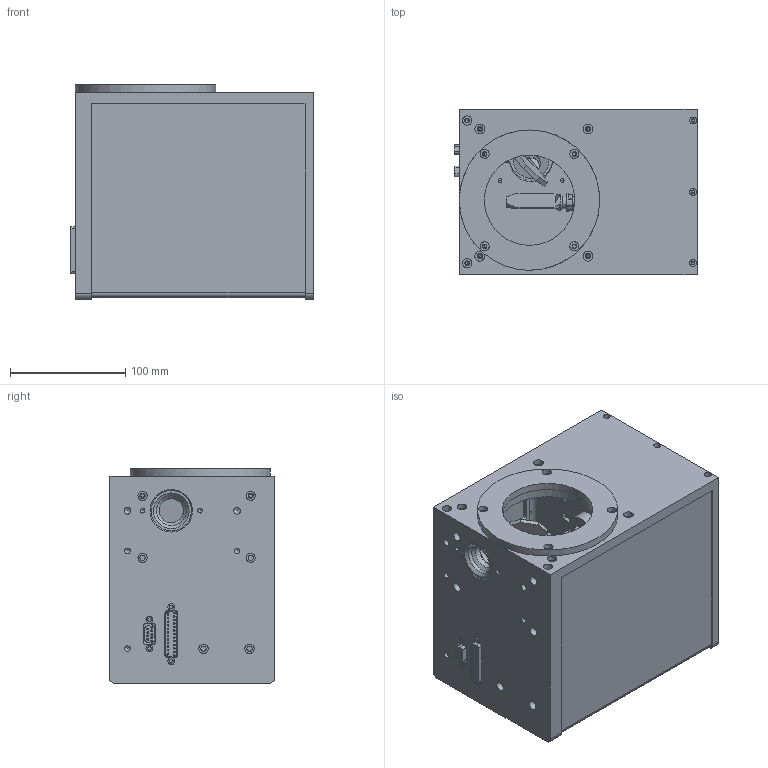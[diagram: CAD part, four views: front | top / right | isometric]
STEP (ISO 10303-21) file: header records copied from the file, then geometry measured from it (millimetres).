
FILE_DESCRIPTION( ( 'Unknown' ), '1' );
FILE_NAME( 'C:/Users/guow115776/Desktop/20mm源芛3D耀倰.stp', 'Unknown', ( 'Unknown' ), ( 'Unknown' ), 'XStep 1.0', 'Unknown', ' ' );
FILE_SCHEMA( ( 'automotive_design' ) );
Length unit declared in the file: millimetre
Products named in the file (1): 18
Bounding box: 210.5 x 144 x 186.5 mm (x, y, z)
Volume: 4378510.8 mm3; surface area: 426616.2 mm2
Topology: 1 solids, 7 shells, 662 faces, 1759 edges, 1177 vertices
Faces by surface type: plane 329, cylinder 280, cone 37, torus 12, bspline 4
Full cylindrical faces by diameter (mm): 0.548 x1, 1.3 x25, 1.5 x9, 1.567 x4, 2.1 x4, 2.459 x7, 3 x4, 3.05 x2, 3.2 x7, 3.242 x20, 3.5 x2, 4 x10, 4.2 x2, 4.4 x2, 4.5 x10, 4.917 x7, 6 x13, 6.5 x2, 7 x4, 8 x12, 8.5 x4, 11 x2, 13.8 x2, 21 x2, 26 x1, 30.48 x2, 35 x2, 78.505 x1, 85 x1, 122 x1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
Entity records: 24426 total; most frequent: CARTESIAN_POINT 3446, DIRECTION 3374, ORIENTED_EDGE 2852, EDGE_CURVE 1426, AXIS2_PLACEMENT_3D 1315, EDGE_LOOP 1054, VERTEX_POINT 1053, FACE_OUTER_BOUND 827
